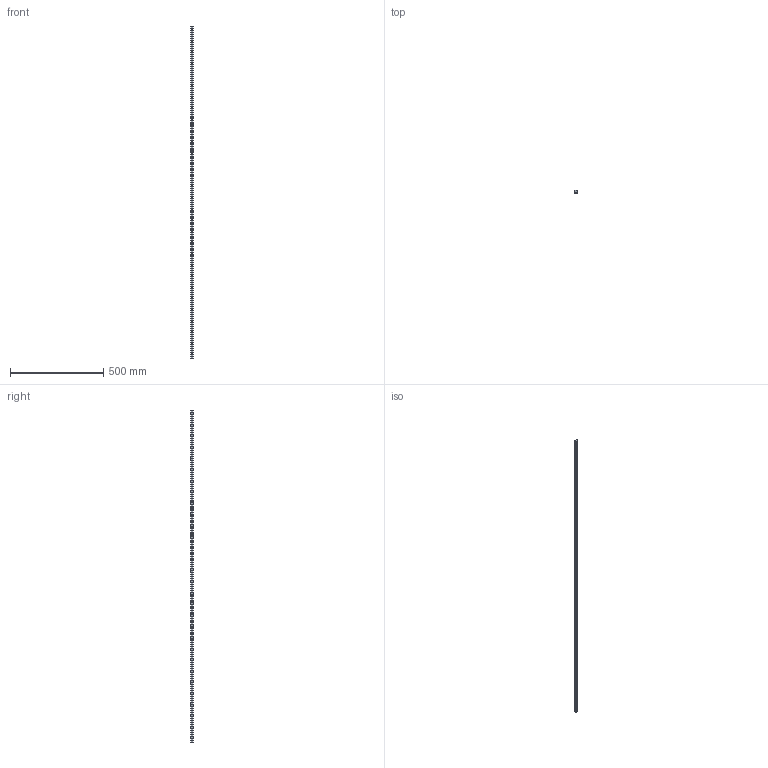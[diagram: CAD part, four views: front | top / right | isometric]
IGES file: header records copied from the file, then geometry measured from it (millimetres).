
Start section: SolidWorks IGES file using analytic representation for surfaces
Global section: file name: C:\Users\IanO\Desktop\L1016_v2\L1016.BL15_v2\L1016.BL15_v2_20190611_IGES\L1016.BL15-1780.igs; native system: SolidWorks 2017; preprocessor: SolidWorks 2017; author: IanO; date: 190612.122954; units: millimetre
Bounding box: 15 x 13 x 1780 mm (x, y, z)
Surface area: 108877.7 mm2 (no closed solid volume)
Topology: 0 solids, 0 shells, 176 faces, 4472 edges, 4472 vertices
Faces by surface type: revolution 124, bspline 52
